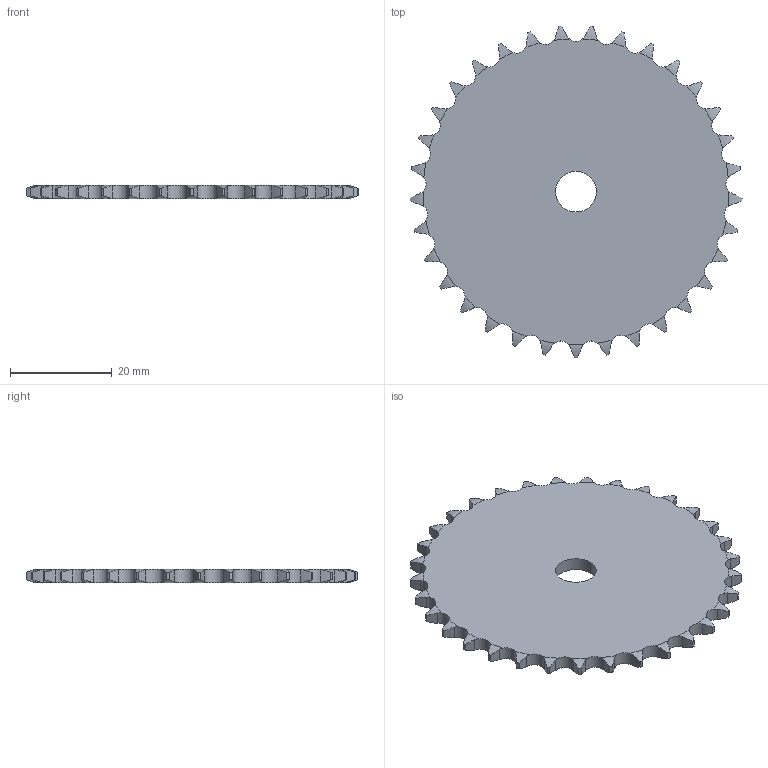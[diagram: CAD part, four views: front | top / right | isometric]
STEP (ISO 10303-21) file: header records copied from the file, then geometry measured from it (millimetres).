
FILE_DESCRIPTION((''),'2;1');
FILE_NAME('500-061-0033_PRT','2021-02-12T',('Brieden'),('Brieden'),'PRO/ENGINEER BY PARAMETRIC TECHNOLOGY CORPORATION, 2010160','PRO/ENGINEER BY PARAMETRIC TECHNOLOGY CORPORATION, 2010160','');
FILE_SCHEMA(('AUTOMOTIVE_DESIGN { 1 0 10303 214 1 1 1 1 }'));
Length unit declared in the file: millimetre
Products named in the file (1): 500-061-0033_PRT
Bounding box: 65.36 x 65.29 x 2.6 mm (x, y, z)
Volume: 7519.8 mm3; surface area: 6594.1 mm2
Topology: 1 solids, 1 shells, 202 faces, 600 edges, 400 vertices
Faces by surface type: cylinder 134, torus 66, plane 2
Entity records: 9388 total; most frequent: CARTESIAN_POINT 2421, ORIENTED_EDGE 1200, DIRECTION 942, PRESENTATION_STYLE_ASSIGNMENT 601, STYLED_ITEM 601, CURVE_STYLE 600, EDGE_CURVE 600, AXIS2_PLACEMENT_3D 404
